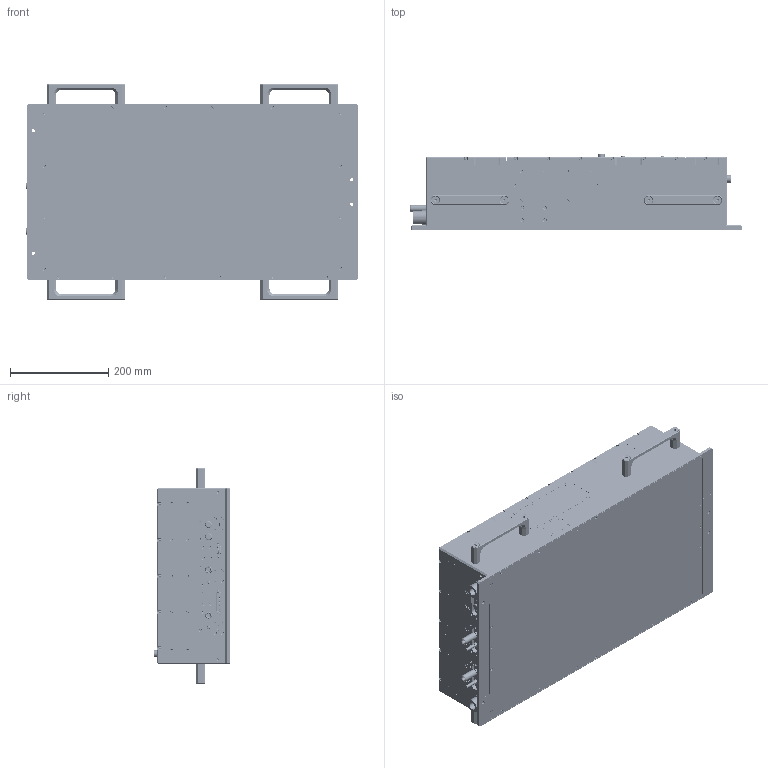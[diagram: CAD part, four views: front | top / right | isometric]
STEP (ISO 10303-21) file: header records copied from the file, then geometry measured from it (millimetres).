
FILE_DESCRIPTION(/* description */ ('','CAx-IF Rec.Pracs.---Representation and Presentation of Product Manufacturing Information (PMI)---4.0---2014-10-13'),/* implementation_level */ '2;1');
FILE_NAME(/* name */ 'C:\Users\MuM\AppData\Local\Temp\MuM_fo1tm4u0.ygh\EW-006926.iam_.step',/* time_stamp */ '2024-02-13T13:02:01+01:00',/* author */ ('C.Hintzen'),/* organization */ (''),/* preprocessor_version */ 'ST-DEVELOPER v18.1',/* originating_system */ 'Autodesk Inventor 2022',/* authorisation */ '');
FILE_SCHEMA (('AP242_MANAGED_MODEL_BASED_3D_ENGINEERING_MIM_LF { 1 0 10303 442 1 1 4 }'));
Products named in the file (46): EW-006926; EW-002493; EW-002614; EW-002615; 0208-10020-01 ; EW-002587; EW-002605; 0272-10218-06 ; Griff_China; 0000-10202-01 DIN EN ISO 10642 M8 X 50; 0208-11323-01 Montageklappe; 0272-10374-01; 0209-10150-01 ; 0272-10371-01 ; Stromanschluss; 0283-12107-01 ; Stromanschluss2; 0283-12108-01; John Guest G1 2; 15-000433; 6HDD15SAY99R40X; 0283-12103-03 ; 1020952_5-1634504-1; 0283-12101-01; EW-003140; EW-003145; EW-003144; EW-003143; EW-003142; EW-003141; EW-000150; EW-000092; EW-002494; 0208-10530-02 Laseraustritt; 0272-10212-01; EW-002559; 0283-10623-03; 0283-11122-01; ISO 7046-1  - M3 x 6 - 4.8 - H; ISO 7046-1  - M3 x 5 - 4.8 - H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
Assembly tree (226 placements, depth 4):
  EW-006926
    EW-002493
    EW-002614
    EW-002615
    0208-10020-01 
    EW-002587
    0272-10218-06   x2
    EW-002605
    Griff_China  x4
    0000-10202-01 DIN EN ISO 10642 M8 X 50  x8
    0208-11323-01 Montageklappe
    0272-10374-01
    0209-10150-01 
    0272-10371-01 
    0283-12107-01   x4
    Stromanschluss  x2
    Stromanschluss2  x2
    0283-12108-01  x2
    John Guest G1 2  x2
    15-000433
    6HDD15SAY99R40X
    0283-12103-03 
    1020952_5-1634504-1
    0283-12101-01  x3
    EW-003140
      EW-003145
        EW-003144
      EW-003143
        EW-003142
      EW-003141
    EW-000150
    EW-000092
    EW-002494
    0208-10530-02 Laseraustritt
    0272-10212-01
    EW-002559
    0283-10623-03
    0283-11122-01
    ISO 4762  - M3 x 8  x52
    ISO 7046-1  - M3 x 8 - 4.8 - H  x30
    ISO 7046-1  - M3 x 6 - 4.8 - H  x10
    ISO 7046-1  - M3 x 12 - 4.8 - H  x20
    ISO 7046-1  - M3 x 5 - 4.8 - H  x26
    ISO 10642  - M4  x  12  x8
    ISO 10642  - M4  x  10  x4
    ISO 10642  - M3  x  8  x19
Bounding box: 677 x 155.5 x 440 mm (x, y, z)
Volume: 33194336.9 mm3; surface area: 2158430.9 mm2
Topology: 230 solids, 285 shells, 11579 faces, 30359 edges, 19669 vertices
Faces by surface type: plane 5629, cylinder 2217, cone 1950, bspline 1008, torus 750, sphere 25
Full cylindrical faces by diameter (mm): 0.6 x25, 0.65 x30, 0.7 x5, 0.8 x32, 0.85 x15, 1.01 x25, 1.221 x3, 1.37 x15, 1.5 x15, 1.6 x2, 1.8 x4, 2.156 x4, 2.459 x136, 2.693 x86, 3 x157, 3.2 x9, 3.242 x15, 3.4 x141, 3.5 x14, 3.8 x4, 4 x23, 4.02 x2, 4.1 x4, 4.3 x4, 4.5 x21, 4.6 x2, 4.917 x16, 5 x7, 5.5 x138, 5.54 x19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
Entity records: 261495 total; most frequent: CARTESIAN_POINT 63783, DIRECTION 38608, ORIENTED_EDGE 36124, EDGE_CURVE 18062, AXIS2_PLACEMENT_3D 13743, VERTEX_POINT 11735, LINE 11122, VECTOR 11122
